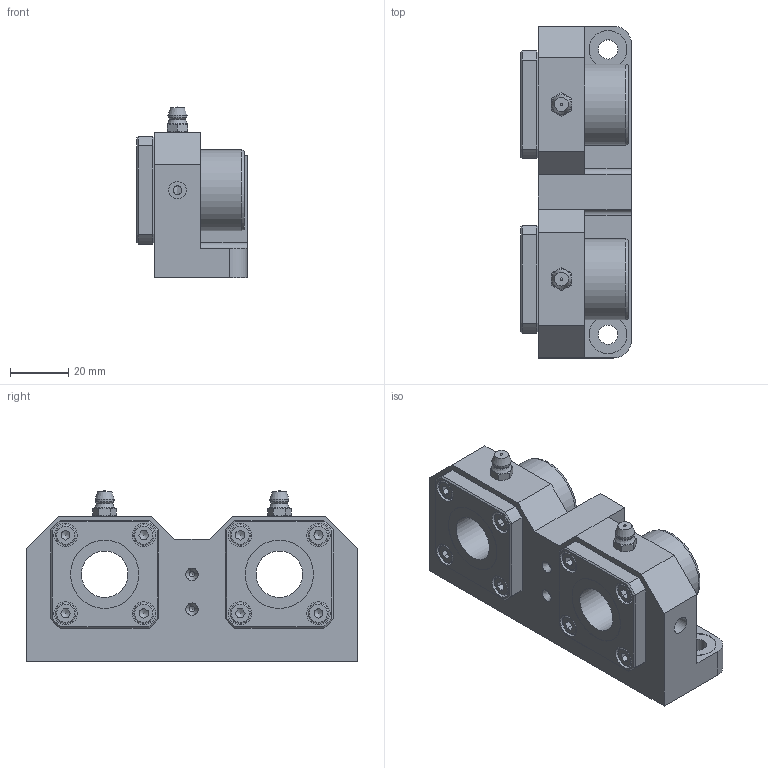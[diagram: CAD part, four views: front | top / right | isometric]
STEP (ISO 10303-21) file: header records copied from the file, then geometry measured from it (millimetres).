
FILE_DESCRIPTION((''),'2;1');
FILE_NAME('D:\製品 (図面)\カタログ用3D\リニアベアリング関連\STEP形式\LUF\LUF16.stp','2010-07-29T14:27:47',('Tsuchiya'),(''),'Autodesk Inventor 10','Autodesk Inventor 10','');
FILE_SCHEMA(('AUTOMOTIVE_DESIGN { 1 0 10303 214 1 1 1 1 }'));
Length unit declared in the file: millimetre
Products named in the file (4): LUF16; LUF161; LUF162; LUF163
Assembly tree (3 placements, depth 2):
  LUF16
    LUF161
    LUF162
    LUF163
Bounding box: 38 x 114 x 58.8 mm (x, y, z)
Volume: 128360.1 mm3; surface area: 43464.6 mm2
Topology: 13 solids, 13 shells, 346 faces, 758 edges, 476 vertices
Faces by surface type: plane 156, cylinder 80, cone 64, bspline 32, torus 10, sphere 4
Full cylindrical faces by diameter (mm): 2 x2, 3 x3, 4 x12, 4.5 x8, 6 x4, 6.6 x1, 7 x8, 8 x8, 13 x1, 16 x2, 23.5 x4, 28 x5
Entity records: 10341 total; most frequent: CARTESIAN_POINT 3605, DIRECTION 1324, ORIENTED_EDGE 1192, EDGE_CURVE 596, EDGE_LOOP 566, AXIS2_PLACEMENT_3D 559, VERTEX_POINT 444, FACE_OUTER_BOUND 346
